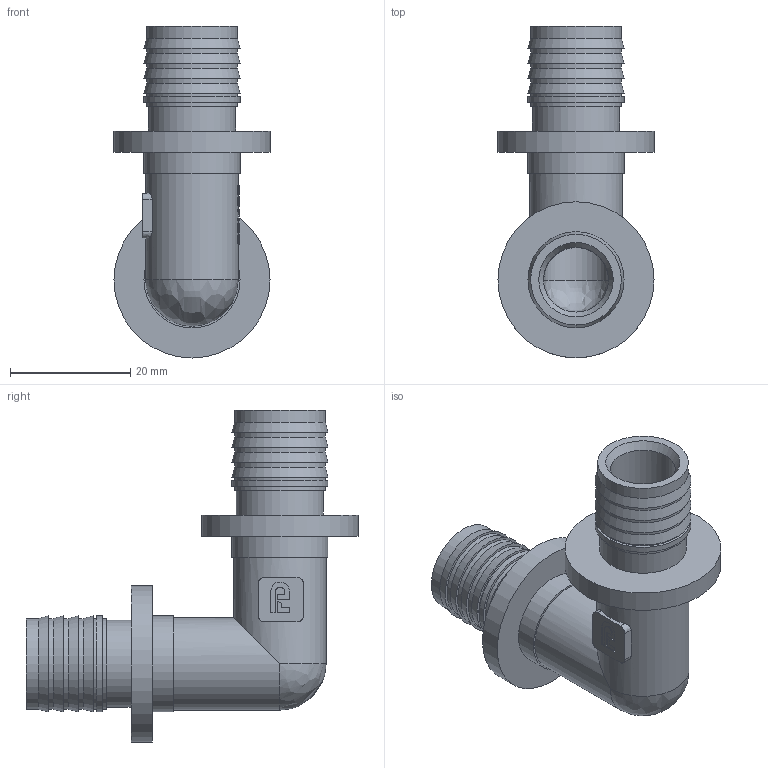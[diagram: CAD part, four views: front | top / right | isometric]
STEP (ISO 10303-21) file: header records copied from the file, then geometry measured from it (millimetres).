
FILE_DESCRIPTION(/* description */ (''),/* implementation_level */ '2;1');
FILE_NAME(/* name */ 'C:\Users\Doom\Desktop\Фадотех\Натяжка\FD-SFU02 NEW 20 18.12.2019\FD-SFU02 NEW 20 18.12.2019.stp',/* time_stamp */ '2022-07-24T20:51:34+03:00',/* author */ ('Doom'),/* organization */ (''),/* preprocessor_version */ 'ST-DEVELOPER v18',/* originating_system */ 'Autodesk Inventor 2020',/* authorisation */ '');
FILE_SCHEMA (('AUTOMOTIVE_DESIGN { 1 0 10303 214 3 1 1 }'));
Length unit declared in the file: millimetre
Products named in the file (1): FD-SFU02 NEW 20 18.12.2019
Bounding box: 26 x 55.3 x 55.3 mm (x, y, z)
Volume: 10272.2 mm3; surface area: 9040.9 mm2
Topology: 1 solids, 1 shells, 167 faces, 464 edges, 320 vertices
Faces by surface type: bspline 68, plane 55, cylinder 34, cone 10
Full cylindrical faces by diameter (mm): 10.8 x2, 14.5 x2, 15.1 x12, 15.4 x2, 16 x4, 26 x2
Entity records: 6918 total; most frequent: CARTESIAN_POINT 2929, ORIENTED_EDGE 920, DIRECTION 646, EDGE_CURVE 460, VERTEX_POINT 320, AXIS2_PLACEMENT_3D 231, EDGE_LOOP 194, LINE 184
